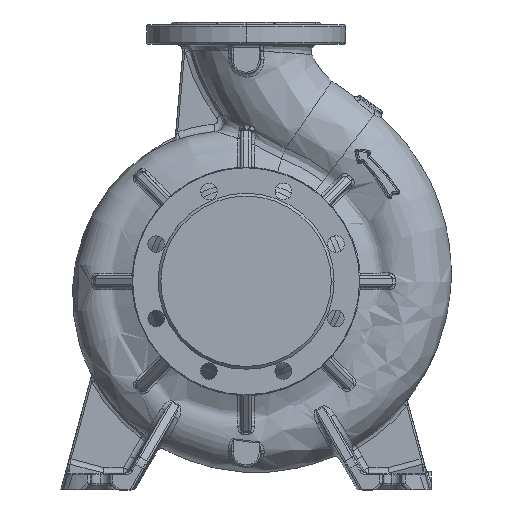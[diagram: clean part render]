
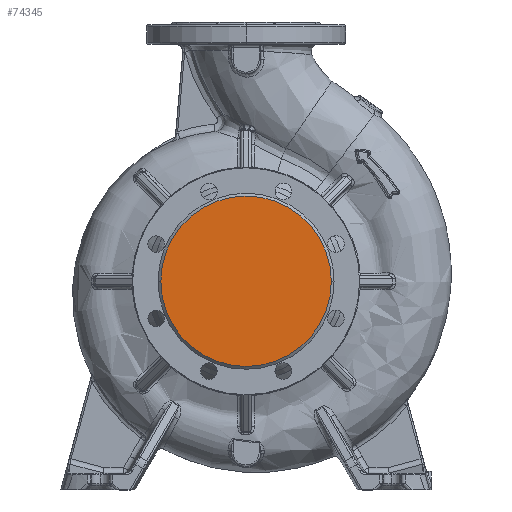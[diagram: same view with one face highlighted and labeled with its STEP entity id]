
A CAD part, top view. The second image highlights one B-rep face of the part: STEP entity #74345.
In plain terms, the highlighted planar face has unit normal (0, 0, 1).
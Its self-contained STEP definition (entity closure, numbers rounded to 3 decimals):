
#1121 = ORIENTED_EDGE ( 'NONE', *, *, #51549, .F. ) ;
#3412 = DIRECTION ( 'NONE',  ( 0., 0., -1. ) ) ;
#10114 = CIRCLE ( 'NONE', #14515, 92. ) ;
#11766 = AXIS2_PLACEMENT_3D ( 'NONE', #80295, #88641, #72631 ) ;
#14515 = AXIS2_PLACEMENT_3D ( 'NONE', #19127, #3412, #59358 ) ;
#15311 = CIRCLE ( 'NONE', #11766, 92. ) ;
#16507 = AXIS2_PLACEMENT_3D ( 'NONE', #27931, #91939, #93314 ) ;
#19127 = CARTESIAN_POINT ( 'NONE',  ( 0., 0., 125. ) ) ;
#19826 = ORIENTED_EDGE ( 'NONE', *, *, #52617, .F. ) ;
#27931 = CARTESIAN_POINT ( 'NONE',  ( 0., 0., 125. ) ) ;
#35718 = CARTESIAN_POINT ( 'NONE',  ( -92., 0., 125. ) ) ;
#39403 = VERTEX_POINT ( 'NONE', #46579 ) ;
#46579 = CARTESIAN_POINT ( 'NONE',  ( 92., 0., 125. ) ) ;
#51549 = EDGE_CURVE ( 'NONE', #67276, #39403, #15311, .T. ) ;
#52617 = EDGE_CURVE ( 'NONE', #39403, #67276, #10114, .T. ) ;
#59358 = DIRECTION ( 'NONE',  ( -1., 0., 0. ) ) ;
#67276 = VERTEX_POINT ( 'NONE', #35718 ) ;
#67659 = FACE_OUTER_BOUND ( 'NONE', #80294, .T. ) ;
#72631 = DIRECTION ( 'NONE',  ( -1., 0., 0. ) ) ;
#74345 = ADVANCED_FACE ( 'NONE', ( #67659 ), #83579, .F. ) ;
#80294 = EDGE_LOOP ( 'NONE', ( #1121, #19826 ) ) ;
#80295 = CARTESIAN_POINT ( 'NONE',  ( 0., 0., 125. ) ) ;
#83579 = PLANE ( 'NONE',  #16507 ) ;
#88641 = DIRECTION ( 'NONE',  ( 0., 0., -1. ) ) ;
#91939 = DIRECTION ( 'NONE',  ( 0., 0., -1. ) ) ;
#93314 = DIRECTION ( 'NONE',  ( -1., 0., 0. ) ) ;
